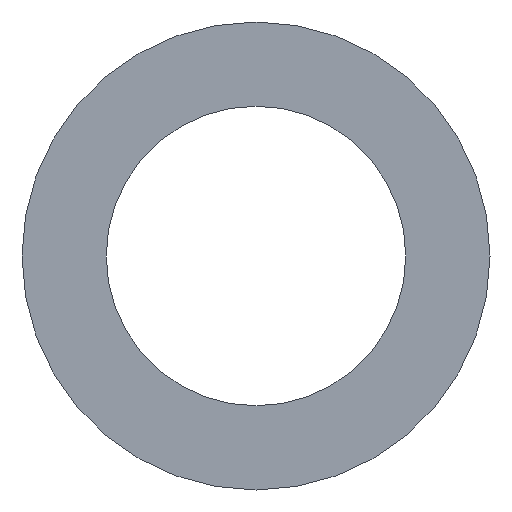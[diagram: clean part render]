
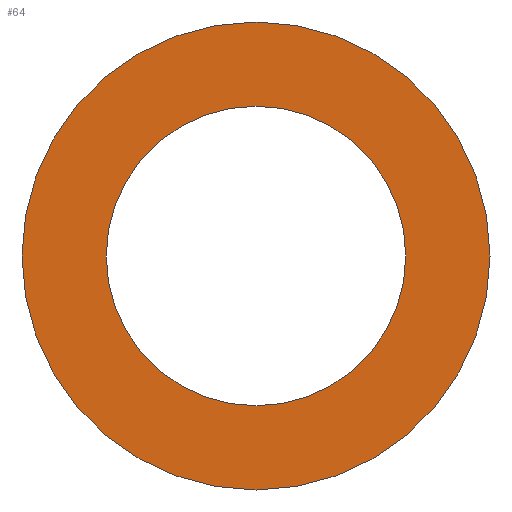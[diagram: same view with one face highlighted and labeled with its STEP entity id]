
A CAD part, front view. The second image highlights one B-rep face of the part: STEP entity #64.
In plain terms, the highlighted planar face has unit normal (0, -1, 0).
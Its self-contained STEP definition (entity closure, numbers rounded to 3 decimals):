
#16=FACE_BOUND('',#28,.T.);
#18=PLANE('',#95);
#22=FACE_OUTER_BOUND('',#27,.T.);
#27=EDGE_LOOP('',(#57));
#28=EDGE_LOOP('',(#58));
#34=CIRCLE('',#90,3.2);
#36=CIRCLE('',#93,5.);
#38=VERTEX_POINT('',#120);
#40=VERTEX_POINT('',#126);
#43=EDGE_CURVE('',#38,#38,#34,.T.);
#46=EDGE_CURVE('',#40,#40,#36,.T.);
#57=ORIENTED_EDGE('',*,*,#46,.F.);
#58=ORIENTED_EDGE('',*,*,#43,.F.);
#64=ADVANCED_FACE('',(#22,#16),#18,.F.);
#90=AXIS2_PLACEMENT_3D('',#122,#103,#104);
#93=AXIS2_PLACEMENT_3D('',#128,#110,#111);
#95=AXIS2_PLACEMENT_3D('',#130,#114,#115);
#103=DIRECTION('center_axis',(0.,-1.,0.));
#104=DIRECTION('ref_axis',(1.,0.,0.));
#110=DIRECTION('center_axis',(0.,1.,0.));
#111=DIRECTION('ref_axis',(-1.,0.,0.));
#114=DIRECTION('center_axis',(0.,1.,0.));
#115=DIRECTION('ref_axis',(0.,0.,1.));
#120=CARTESIAN_POINT('',(-3.2,0.,0.));
#122=CARTESIAN_POINT('Origin',(0.,0.,0.));
#126=CARTESIAN_POINT('',(5.,0.,0.));
#128=CARTESIAN_POINT('Origin',(0.,0.,0.));
#130=CARTESIAN_POINT('Origin',(0.,0.,0.));
